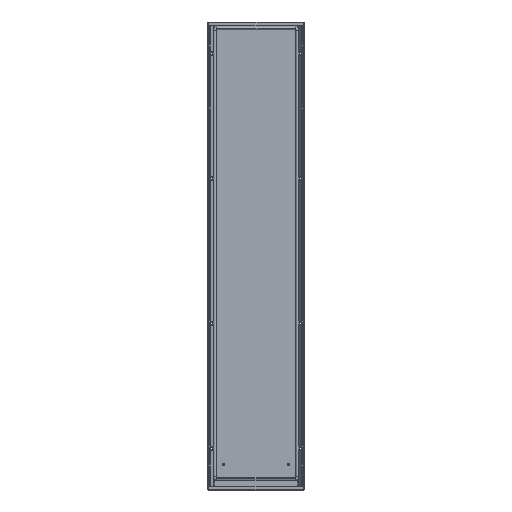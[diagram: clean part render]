
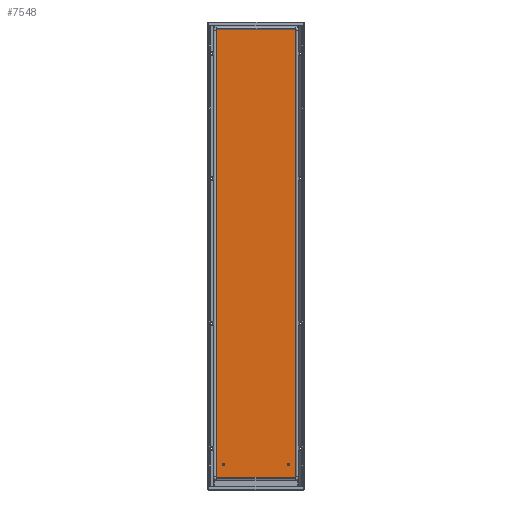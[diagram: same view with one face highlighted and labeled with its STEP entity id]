
A CAD part, top view. The second image highlights one B-rep face of the part: STEP entity #7548.
In plain terms, the highlighted planar face has unit normal (0, 0, 1).
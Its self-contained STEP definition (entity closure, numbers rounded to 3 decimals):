
#13 = DIRECTION ( 'NONE',  ( -1., 0., 0. ) ) ;
#15 = DIRECTION ( 'NONE',  ( 1., 0., 0. ) ) ;
#38 = EDGE_CURVE ( 'NONE', #1779, #3357, #6127, .T. ) ;
#59 = ORIENTED_EDGE ( 'NONE', *, *, #7567, .F. ) ;
#72 = EDGE_CURVE ( 'NONE', #6408, #1088, #4312, .T. ) ;
#94 = EDGE_CURVE ( 'NONE', #3357, #6408, #1243, .T. ) ;
#122 = EDGE_CURVE ( 'NONE', #3633, #1779, #3936, .T. ) ;
#248 = EDGE_CURVE ( 'NONE', #5437, #6454, #3158, .T. ) ;
#259 = EDGE_CURVE ( 'NONE', #4854, #5565, #6025, .T. ) ;
#295 = FACE_BOUND ( 'NONE', #2394, .T. ) ;
#378 = ORIENTED_EDGE ( 'NONE', *, *, #38, .F. ) ;
#567 = AXIS2_PLACEMENT_3D ( 'NONE', #7481, #3794, #15 ) ;
#657 = AXIS2_PLACEMENT_3D ( 'NONE', #1444, #5722, #2047 ) ;
#746 = DIRECTION ( 'NONE',  ( 0., 0., -1. ) ) ;
#940 = ORIENTED_EDGE ( 'NONE', *, *, #72, .F. ) ;
#1061 = CARTESIAN_POINT ( 'NONE',  ( 149., 860., 1. ) ) ;
#1088 = VERTEX_POINT ( 'NONE', #2819 ) ;
#1164 = CARTESIAN_POINT ( 'NONE',  ( 149., -839.5, 1. ) ) ;
#1243 = CIRCLE ( 'NONE', #1854, 2.5 ) ;
#1270 = ORIENTED_EDGE ( 'NONE', *, *, #259, .F. ) ;
#1303 = CARTESIAN_POINT ( 'NONE',  ( -151.5, -839.5, 1. ) ) ;
#1345 = CARTESIAN_POINT ( 'NONE',  ( 151.5, 857.5, 1. ) ) ;
#1375 = CARTESIAN_POINT ( 'NONE',  ( 149., -842., 1. ) ) ;
#1444 = CARTESIAN_POINT ( 'NONE',  ( -124., -791., 1. ) ) ;
#1476 = CARTESIAN_POINT ( 'NONE',  ( -184., 889., 1. ) ) ;
#1572 = CARTESIAN_POINT ( 'NONE',  ( -149., 860., 1. ) ) ;
#1598 = AXIS2_PLACEMENT_3D ( 'NONE', #1666, #5966, #2292 ) ;
#1628 = AXIS2_PLACEMENT_3D ( 'NONE', #2251, #6579, #2876 ) ;
#1666 = CARTESIAN_POINT ( 'NONE',  ( 124., -791., 1. ) ) ;
#1723 = CARTESIAN_POINT ( 'NONE',  ( 149., 860., 1. ) ) ;
#1779 = VERTEX_POINT ( 'NONE', #1345 ) ;
#1795 = AXIS2_PLACEMENT_3D ( 'NONE', #4453, #5973, #4267 ) ;
#1850 = DIRECTION ( 'NONE',  ( 0., -1., 0. ) ) ;
#1854 = AXIS2_PLACEMENT_3D ( 'NONE', #1164, #4730, #5435 ) ;
#1967 = EDGE_CURVE ( 'NONE', #6454, #5437, #7788, .T. ) ;
#2047 = DIRECTION ( 'NONE',  ( 1., 0., 0. ) ) ;
#2048 = EDGE_CURVE ( 'NONE', #5565, #4854, #5543, .T. ) ;
#2120 = PLANE ( 'NONE',  #2429 ) ;
#2251 = CARTESIAN_POINT ( 'NONE',  ( -124., -791., 1. ) ) ;
#2263 = VECTOR ( 'NONE', #4834, 1000. ) ;
#2292 = DIRECTION ( 'NONE',  ( 1., 0., 0. ) ) ;
#2394 = EDGE_LOOP ( 'NONE', ( #6749, #7355 ) ) ;
#2429 = AXIS2_PLACEMENT_3D ( 'NONE', #1476, #3373, #7677 ) ;
#2456 = LINE ( 'NONE', #7331, #2263 ) ;
#2473 = VECTOR ( 'NONE', #13, 1000. ) ;
#2746 = CIRCLE ( 'NONE', #3411, 2.5 ) ;
#2819 = CARTESIAN_POINT ( 'NONE',  ( -149., -842., 1. ) ) ;
#2832 = AXIS2_PLACEMENT_3D ( 'NONE', #7101, #3409, #7735 ) ;
#2856 = VECTOR ( 'NONE', #1850, 1000. ) ;
#2876 = DIRECTION ( 'NONE',  ( 1., 0., 0. ) ) ;
#3158 = CIRCLE ( 'NONE', #1628, 4.5 ) ;
#3215 = CARTESIAN_POINT ( 'NONE',  ( 151.5, -839.5, 1. ) ) ;
#3273 = VERTEX_POINT ( 'NONE', #1303 ) ;
#3357 = VERTEX_POINT ( 'NONE', #3215 ) ;
#3373 = DIRECTION ( 'NONE',  ( 0., 0., 1. ) ) ;
#3409 = DIRECTION ( 'NONE',  ( 0., 0., -1. ) ) ;
#3411 = AXIS2_PLACEMENT_3D ( 'NONE', #4439, #746, #5035 ) ;
#3488 = CARTESIAN_POINT ( 'NONE',  ( 128.5, -791., 1. ) ) ;
#3553 = ORIENTED_EDGE ( 'NONE', *, *, #7256, .F. ) ;
#3633 = VERTEX_POINT ( 'NONE', #1723 ) ;
#3794 = DIRECTION ( 'NONE',  ( 0., 0., 1. ) ) ;
#3936 = CIRCLE ( 'NONE', #1795, 2.5 ) ;
#4267 = DIRECTION ( 'NONE',  ( -1., 0., 0. ) ) ;
#4312 = LINE ( 'NONE', #5390, #2473 ) ;
#4439 = CARTESIAN_POINT ( 'NONE',  ( -149., -839.5, 1. ) ) ;
#4453 = CARTESIAN_POINT ( 'NONE',  ( 149., 857.5, 1. ) ) ;
#4483 = LINE ( 'NONE', #1061, #7379 ) ;
#4730 = DIRECTION ( 'NONE',  ( 0., 0., -1. ) ) ;
#4786 = ORIENTED_EDGE ( 'NONE', *, *, #122, .F. ) ;
#4834 = DIRECTION ( 'NONE',  ( 0., 1., 0. ) ) ;
#4854 = VERTEX_POINT ( 'NONE', #5139 ) ;
#5035 = DIRECTION ( 'NONE',  ( -1., 0., 0. ) ) ;
#5086 = ORIENTED_EDGE ( 'NONE', *, *, #2048, .F. ) ;
#5139 = CARTESIAN_POINT ( 'NONE',  ( 119.5, -791., 1. ) ) ;
#5145 = EDGE_LOOP ( 'NONE', ( #1270, #5086 ) ) ;
#5164 = CARTESIAN_POINT ( 'NONE',  ( -128.5, -791., 1. ) ) ;
#5363 = DIRECTION ( 'NONE',  ( -1., 0., 0. ) ) ;
#5390 = CARTESIAN_POINT ( 'NONE',  ( 149., -842., 1. ) ) ;
#5435 = DIRECTION ( 'NONE',  ( -1., 0., 0. ) ) ;
#5437 = VERTEX_POINT ( 'NONE', #5164 ) ;
#5543 = CIRCLE ( 'NONE', #567, 4.5 ) ;
#5565 = VERTEX_POINT ( 'NONE', #3488 ) ;
#5722 = DIRECTION ( 'NONE',  ( 0., 0., 1. ) ) ;
#5966 = DIRECTION ( 'NONE',  ( 0., 0., 1. ) ) ;
#5973 = DIRECTION ( 'NONE',  ( 0., 0., -1. ) ) ;
#6025 = CIRCLE ( 'NONE', #1598, 4.5 ) ;
#6127 = LINE ( 'NONE', #6278, #2856 ) ;
#6139 = ORIENTED_EDGE ( 'NONE', *, *, #7690, .T. ) ;
#6271 = ORIENTED_EDGE ( 'NONE', *, *, #7422, .F. ) ;
#6278 = CARTESIAN_POINT ( 'NONE',  ( 151.5, 857.5, 1. ) ) ;
#6408 = VERTEX_POINT ( 'NONE', #1375 ) ;
#6454 = VERTEX_POINT ( 'NONE', #6965 ) ;
#6505 = CIRCLE ( 'NONE', #2832, 2.5 ) ;
#6579 = DIRECTION ( 'NONE',  ( 0., 0., 1. ) ) ;
#6707 = FACE_BOUND ( 'NONE', #5145, .T. ) ;
#6749 = ORIENTED_EDGE ( 'NONE', *, *, #248, .F. ) ;
#6899 = FACE_OUTER_BOUND ( 'NONE', #7772, .T. ) ;
#6907 = VERTEX_POINT ( 'NONE', #7445 ) ;
#6965 = CARTESIAN_POINT ( 'NONE',  ( -119.5, -791., 1. ) ) ;
#7101 = CARTESIAN_POINT ( 'NONE',  ( -149., 857.5, 1. ) ) ;
#7204 = ORIENTED_EDGE ( 'NONE', *, *, #94, .F. ) ;
#7256 = EDGE_CURVE ( 'NONE', #3273, #6907, #2456, .T. ) ;
#7331 = CARTESIAN_POINT ( 'NONE',  ( -151.5, -839.5, 1. ) ) ;
#7355 = ORIENTED_EDGE ( 'NONE', *, *, #1967, .F. ) ;
#7379 = VECTOR ( 'NONE', #5363, 1000. ) ;
#7422 = EDGE_CURVE ( 'NONE', #1088, #3273, #2746, .T. ) ;
#7445 = CARTESIAN_POINT ( 'NONE',  ( -151.5, 857.5, 1. ) ) ;
#7481 = CARTESIAN_POINT ( 'NONE',  ( 124., -791., 1. ) ) ;
#7548 = ADVANCED_FACE ( 'NONE', ( #6899, #6707, #295 ), #2120, .T. ) ;
#7567 = EDGE_CURVE ( 'NONE', #6907, #7589, #6505, .T. ) ;
#7589 = VERTEX_POINT ( 'NONE', #1572 ) ;
#7677 = DIRECTION ( 'NONE',  ( 1., 0., 0. ) ) ;
#7690 = EDGE_CURVE ( 'NONE', #3633, #7589, #4483, .T. ) ;
#7735 = DIRECTION ( 'NONE',  ( -1., 0., 0. ) ) ;
#7772 = EDGE_LOOP ( 'NONE', ( #59, #3553, #6271, #940, #7204, #378, #4786, #6139 ) ) ;
#7788 = CIRCLE ( 'NONE', #657, 4.5 ) ;
